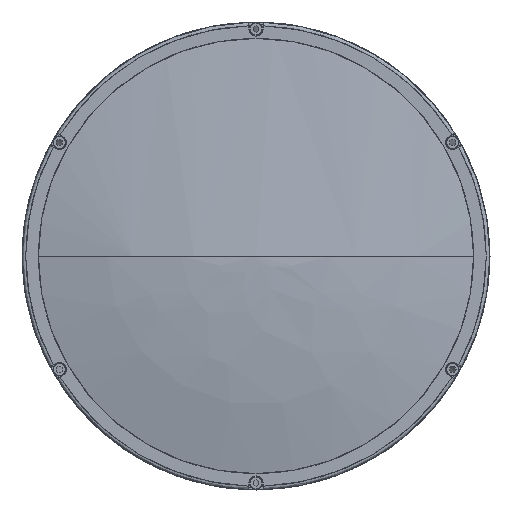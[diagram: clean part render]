
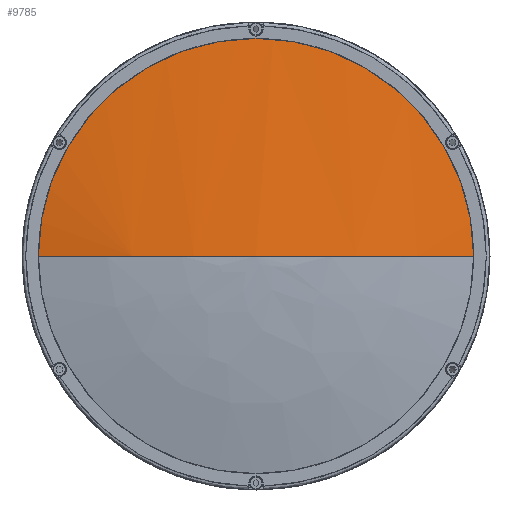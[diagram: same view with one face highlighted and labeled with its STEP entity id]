
A CAD part, left-side view. The second image highlights one B-rep face of the part: STEP entity #9785.
In plain terms, the highlighted face is a revolution surface.
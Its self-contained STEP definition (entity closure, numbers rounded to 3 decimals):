
#9785 = ADVANCED_FACE('',(#9786),#9804,.T.);
#9786 = FACE_BOUND('',#9787,.T.);
#9787 = EDGE_LOOP('',(#9788,#9818,#9837,#9856));
#9788 = ORIENTED_EDGE('',*,*,#9789,.F.);
#9789 = EDGE_CURVE('',#9790,#9792,#9794,.T.);
#9790 = VERTEX_POINT('',#9791);
#9791 = CARTESIAN_POINT('',(-422.1,0.,
    0.));
#9792 = VERTEX_POINT('',#9793);
#9793 = CARTESIAN_POINT('',(-411.593,-95.,
    0.));
#9794 = SURFACE_CURVE('',#9795,(#9803),.PCURVE_S1.);
#9795 = ( BOUNDED_CURVE() B_SPLINE_CURVE(6,(#9796,#9797,#9798,#9799,
#9800,#9801,#9802),.UNSPECIFIED.,.F.,.F.) B_SPLINE_CURVE_WITH_KNOTS((7,7
),(0.,1.),.PIECEWISE_BEZIER_KNOTS.) CURVE() 
GEOMETRIC_REPRESENTATION_ITEM() RATIONAL_B_SPLINE_CURVE((1.001,
    1.,1.,1.,1.,
1.,1.001)) REPRESENTATION_ITEM('') );
#9796 = CARTESIAN_POINT('',(-422.1,0.,
    0.));
#9797 = CARTESIAN_POINT('',(-422.1,-15.969,
    0.));
#9798 = CARTESIAN_POINT('',(-421.396,-31.929,
    0.));
#9799 = CARTESIAN_POINT('',(-419.99,-47.848,
    0.));
#9800 = CARTESIAN_POINT('',(-417.884,-63.688,
    0.));
#9801 = CARTESIAN_POINT('',(-415.082,-79.417,
    0.));
#9802 = CARTESIAN_POINT('',(-411.593,-95.,
    0.));
#9803 = PCURVE('',#9804,#9813);
#9804 = SURFACE_OF_REVOLUTION('',#9805,#9810);
#9805 = CIRCLE('',#9806,434.72);
#9806 = AXIS2_PLACEMENT_3D('',#9807,#9808,#9809);
#9807 = CARTESIAN_POINT('',(12.62,0.,0.
    ));
#9808 = DIRECTION('',(0.,0.,-1.));
#9809 = DIRECTION('',(1.,0.,0.));
#9810 = AXIS1_PLACEMENT('',#9811,#9812);
#9811 = CARTESIAN_POINT('',(12.62,0.,0.));
#9812 = DIRECTION('',(1.,0.,0.));
#9813 = DEFINITIONAL_REPRESENTATION('',(#9814),#9817);
#9814 = B_SPLINE_CURVE_WITH_KNOTS('',1,(#9815,#9816),.UNSPECIFIED.,.F.,
  .F.,(2,2),(0.,1.),.PIECEWISE_BEZIER_KNOTS.);
#9815 = CARTESIAN_POINT('',(6.283,3.142));
#9816 = CARTESIAN_POINT('',(6.283,2.921));
#9817 = ( GEOMETRIC_REPRESENTATION_CONTEXT(2) 
PARAMETRIC_REPRESENTATION_CONTEXT() REPRESENTATION_CONTEXT('',''
  ) );
#9818 = ORIENTED_EDGE('',*,*,#9819,.F.);
#9819 = EDGE_CURVE('',#9820,#9790,#9822,.T.);
#9820 = VERTEX_POINT('',#9821);
#9821 = CARTESIAN_POINT('',(-422.1,0.,
    0.));
#9822 = SURFACE_CURVE('',#9823,(#9831),.PCURVE_S1.);
#9823 = ( BOUNDED_CURVE() B_SPLINE_CURVE(6,(#9824,#9825,#9826,#9827,
#9828,#9829,#9830),.UNSPECIFIED.,.F.,.F.) B_SPLINE_CURVE_WITH_KNOTS((7,7
),(0.,1.),.PIECEWISE_BEZIER_KNOTS.) CURVE() 
GEOMETRIC_REPRESENTATION_ITEM() RATIONAL_B_SPLINE_CURVE((1.133,
    1.036,0.992,0.976,0.992,
1.036,1.133)) REPRESENTATION_ITEM('') );
#9824 = CARTESIAN_POINT('',(-422.1,0.,
    0.));
#9825 = CARTESIAN_POINT('',(-422.1,0.,0.
    ));
#9826 = CARTESIAN_POINT('',(-422.1,0.,0.
    ));
#9827 = CARTESIAN_POINT('',(-422.1,0.,0.
    ));
#9828 = CARTESIAN_POINT('',(-422.1,0.,
    0.));
#9829 = CARTESIAN_POINT('',(-422.1,0.,
    0.));
#9830 = CARTESIAN_POINT('',(-422.1,0.,
    0.));
#9831 = PCURVE('',#9804,#9832);
#9832 = DEFINITIONAL_REPRESENTATION('',(#9833),#9836);
#9833 = B_SPLINE_CURVE_WITH_KNOTS('',1,(#9834,#9835),.UNSPECIFIED.,.F.,
  .F.,(2,2),(0.,1.),.PIECEWISE_BEZIER_KNOTS.);
#9834 = CARTESIAN_POINT('',(3.142,3.142));
#9835 = CARTESIAN_POINT('',(6.283,3.142));
#9836 = ( GEOMETRIC_REPRESENTATION_CONTEXT(2) 
PARAMETRIC_REPRESENTATION_CONTEXT() REPRESENTATION_CONTEXT('',''
  ) );
#9837 = ORIENTED_EDGE('',*,*,#9838,.F.);
#9838 = EDGE_CURVE('',#9839,#9820,#9841,.T.);
#9839 = VERTEX_POINT('',#9840);
#9840 = CARTESIAN_POINT('',(-411.593,95.,
    0.));
#9841 = SURFACE_CURVE('',#9842,(#9850),.PCURVE_S1.);
#9842 = ( BOUNDED_CURVE() B_SPLINE_CURVE(6,(#9843,#9844,#9845,#9846,
#9847,#9848,#9849),.UNSPECIFIED.,.F.,.F.) B_SPLINE_CURVE_WITH_KNOTS((7,7
),(0.,1.),.PIECEWISE_BEZIER_KNOTS.) CURVE() 
GEOMETRIC_REPRESENTATION_ITEM() RATIONAL_B_SPLINE_CURVE((1.001,
    1.,1.,1.,1.,
1.,1.001)) REPRESENTATION_ITEM('') );
#9843 = CARTESIAN_POINT('',(-411.593,95.,
    0.));
#9844 = CARTESIAN_POINT('',(-415.082,79.417,
    0.));
#9845 = CARTESIAN_POINT('',(-417.884,63.688,
    0.));
#9846 = CARTESIAN_POINT('',(-419.99,47.848,
    0.));
#9847 = CARTESIAN_POINT('',(-421.396,31.929,
    0.));
#9848 = CARTESIAN_POINT('',(-422.1,15.969,
    0.));
#9849 = CARTESIAN_POINT('',(-422.1,0.,
    0.));
#9850 = PCURVE('',#9804,#9851);
#9851 = DEFINITIONAL_REPRESENTATION('',(#9852),#9855);
#9852 = B_SPLINE_CURVE_WITH_KNOTS('',1,(#9853,#9854),.UNSPECIFIED.,.F.,
  .F.,(2,2),(0.,1.),.PIECEWISE_BEZIER_KNOTS.);
#9853 = CARTESIAN_POINT('',(3.142,2.921));
#9854 = CARTESIAN_POINT('',(3.142,3.142));
#9855 = ( GEOMETRIC_REPRESENTATION_CONTEXT(2) 
PARAMETRIC_REPRESENTATION_CONTEXT() REPRESENTATION_CONTEXT('',''
  ) );
#9856 = ORIENTED_EDGE('',*,*,#9857,.F.);
#9857 = EDGE_CURVE('',#9792,#9839,#9858,.T.);
#9858 = SURFACE_CURVE('',#9859,(#9871),.PCURVE_S1.);
#9859 = B_SPLINE_CURVE_WITH_KNOTS('',10,(#9860,#9861,#9862,#9863,#9864,
    #9865,#9866,#9867,#9868,#9869,#9870),.UNSPECIFIED.,.F.,.F.,(11,11),(
    0.,1.),.PIECEWISE_BEZIER_KNOTS.);
#9860 = CARTESIAN_POINT('',(-411.593,-95.,
    0.));
#9861 = CARTESIAN_POINT('',(-411.593,-95.,
    29.845));
#9862 = CARTESIAN_POINT('',(-411.593,-84.582,
    59.69));
#9863 = CARTESIAN_POINT('',(-411.593,-63.746,
    85.444));
#9864 = CARTESIAN_POINT('',(-411.593,-34.329,
    103.016));
#9865 = CARTESIAN_POINT('',(-411.593,0.,
    109.276));
#9866 = CARTESIAN_POINT('',(-411.593,34.329,
    103.016));
#9867 = CARTESIAN_POINT('',(-411.593,63.746,
    85.444));
#9868 = CARTESIAN_POINT('',(-411.593,84.582,
    59.69));
#9869 = CARTESIAN_POINT('',(-411.593,95.,
    29.845));
#9870 = CARTESIAN_POINT('',(-411.593,95.,
    0.));
#9871 = PCURVE('',#9804,#9872);
#9872 = DEFINITIONAL_REPRESENTATION('',(#9873),#9876);
#9873 = B_SPLINE_CURVE_WITH_KNOTS('',1,(#9874,#9875),.UNSPECIFIED.,.F.,
  .F.,(2,2),(0.,1.),.PIECEWISE_BEZIER_KNOTS.);
#9874 = CARTESIAN_POINT('',(6.283,2.921));
#9875 = CARTESIAN_POINT('',(3.142,2.921));
#9876 = ( GEOMETRIC_REPRESENTATION_CONTEXT(2) 
PARAMETRIC_REPRESENTATION_CONTEXT() REPRESENTATION_CONTEXT('',''
  ) );
